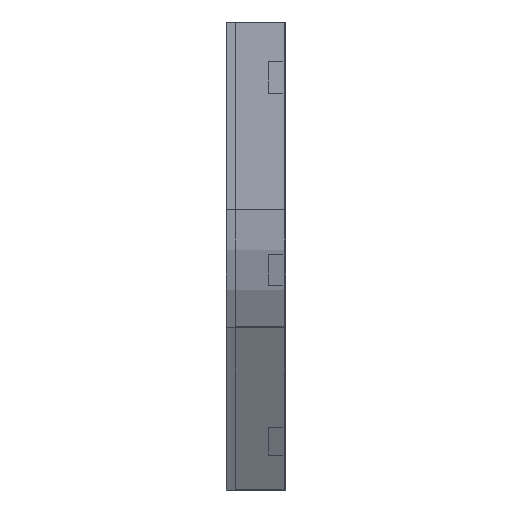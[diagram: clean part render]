
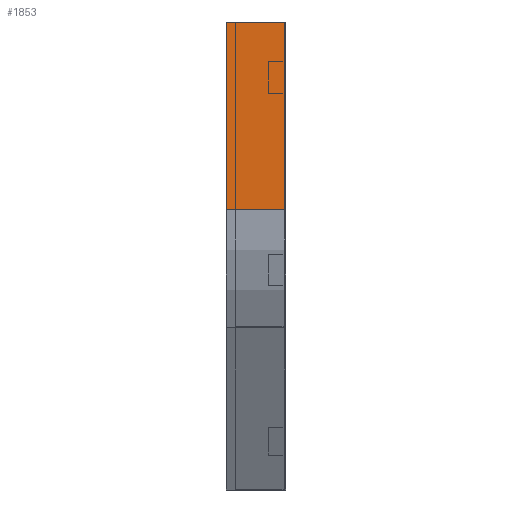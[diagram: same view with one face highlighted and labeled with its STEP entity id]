
A CAD part, left-side view. The second image highlights one B-rep face of the part: STEP entity #1853.
In plain terms, the highlighted planar face has unit normal (-1, 0, 0).
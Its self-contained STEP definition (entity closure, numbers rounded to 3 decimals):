
#19 = VERTEX_POINT ( 'NONE', #993 ) ;
#75 = LINE ( 'NONE', #629, #321 ) ;
#103 = EDGE_CURVE ( 'NONE', #691, #915, #568, .T. ) ;
#113 = VECTOR ( 'NONE', #481, 1000. ) ;
#143 = CARTESIAN_POINT ( 'NONE',  ( 0., 75., 0. ) ) ;
#206 = ORIENTED_EDGE ( 'NONE', *, *, #239, .F. ) ;
#239 = EDGE_CURVE ( 'NONE', #677, #19, #1654, .T. ) ;
#321 = VECTOR ( 'NONE', #1195, 1000. ) ;
#456 = CARTESIAN_POINT ( 'NONE',  ( 0., 0., 0. ) ) ;
#481 = DIRECTION ( 'NONE',  ( 0., 0., -1. ) ) ;
#483 = LINE ( 'NONE', #456, #1115 ) ;
#558 = DIRECTION ( 'NONE',  ( 0., 0., -1. ) ) ;
#568 = LINE ( 'NONE', #1856, #634 ) ;
#629 = CARTESIAN_POINT ( 'NONE',  ( 0., 0., -237.564 ) ) ;
#634 = VECTOR ( 'NONE', #558, 1000. ) ;
#636 = AXIS2_PLACEMENT_3D ( 'NONE', #1519, #1350, #1537 ) ;
#674 = ORIENTED_EDGE ( 'NONE', *, *, #764, .F. ) ;
#677 = VERTEX_POINT ( 'NONE', #840 ) ;
#691 = VERTEX_POINT ( 'NONE', #143 ) ;
#764 = EDGE_CURVE ( 'NONE', #691, #677, #483, .T. ) ;
#840 = CARTESIAN_POINT ( 'NONE',  ( 0., 0., 0. ) ) ;
#897 = ORIENTED_EDGE ( 'NONE', *, *, #1220, .T. ) ;
#915 = VERTEX_POINT ( 'NONE', #1076 ) ;
#993 = CARTESIAN_POINT ( 'NONE',  ( 0., 0., -237.564 ) ) ;
#1076 = CARTESIAN_POINT ( 'NONE',  ( 0., 75., -237.564 ) ) ;
#1115 = VECTOR ( 'NONE', #1744, 1000. ) ;
#1192 = CARTESIAN_POINT ( 'NONE',  ( 0., 0., 0. ) ) ;
#1195 = DIRECTION ( 'NONE',  ( 0., -1., 0. ) ) ;
#1220 = EDGE_CURVE ( 'NONE', #915, #19, #75, .T. ) ;
#1299 = ORIENTED_EDGE ( 'NONE', *, *, #103, .T. ) ;
#1350 = DIRECTION ( 'NONE',  ( 1., 0., 0. ) ) ;
#1509 = EDGE_LOOP ( 'NONE', ( #206, #674, #1299, #897 ) ) ;
#1519 = CARTESIAN_POINT ( 'NONE',  ( 0., 0., 0. ) ) ;
#1537 = DIRECTION ( 'NONE',  ( 0., 0., -1. ) ) ;
#1654 = LINE ( 'NONE', #1192, #113 ) ;
#1744 = DIRECTION ( 'NONE',  ( 0., -1., 0. ) ) ;
#1804 = FACE_OUTER_BOUND ( 'NONE', #1509, .T. ) ;
#1815 = PLANE ( 'NONE',  #636 ) ;
#1853 = ADVANCED_FACE ( 'NONE', ( #1804 ), #1815, .F. ) ;
#1856 = CARTESIAN_POINT ( 'NONE',  ( 0., 75., 0. ) ) ;
